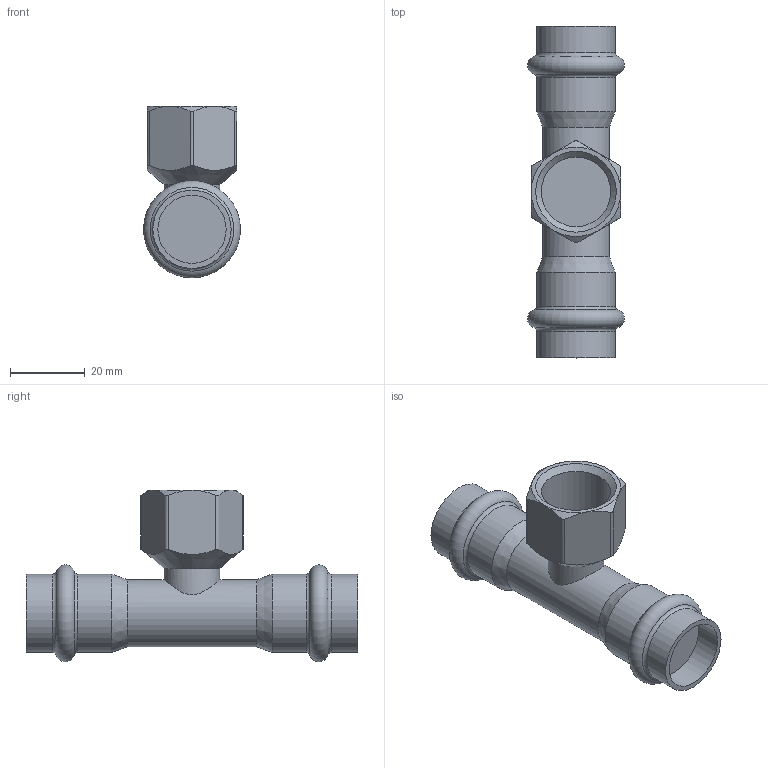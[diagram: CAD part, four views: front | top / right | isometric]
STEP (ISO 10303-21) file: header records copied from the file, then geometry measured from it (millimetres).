
FILE_DESCRIPTION(('STEP AP203'), '1');
FILE_NAME('VTi.932.I.180418', '', ('UNSPECIFIED'), ('UNSPECIFIED'), 'C3D Converter', 'C3D Toolkit', '');
FILE_SCHEMA(('CONFIG_CONTROL_DESIGN'));
Length unit declared in the file: millimetre
Bounding box: 26 x 89 x 46 mm (x, y, z)
Volume: 31026.1 mm3; surface area: 10665.2 mm2
Topology: 1 solids, 1 shells, 43 faces, 94 edges, 56 vertices
Faces by surface type: cylinder 15, plane 12, cone 10, torus 6
Full cylindrical faces by diameter (mm): 15 x1, 18 x1, 18.3 x2, 18.632 x1, 21 x4
Entity records: 2252 total; most frequent: CARTESIAN_POINT 1398, DIRECTION 156, ORIENTED_EDGE 148, EDGE_CURVE 74, AXIS2_PLACEMENT_3D 72, EDGE_LOOP 66, VERTEX_POINT 56, ADVANCED_FACE 43
